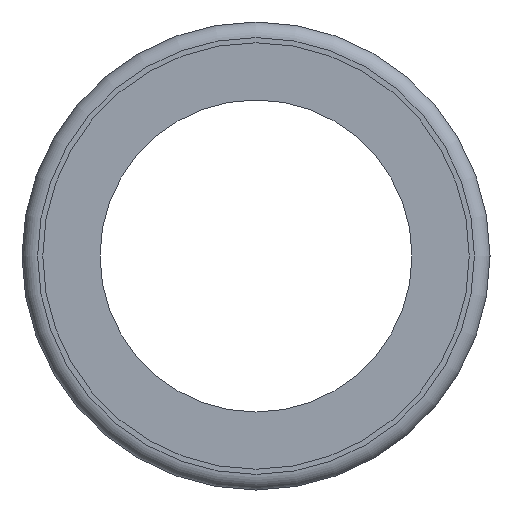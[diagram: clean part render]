
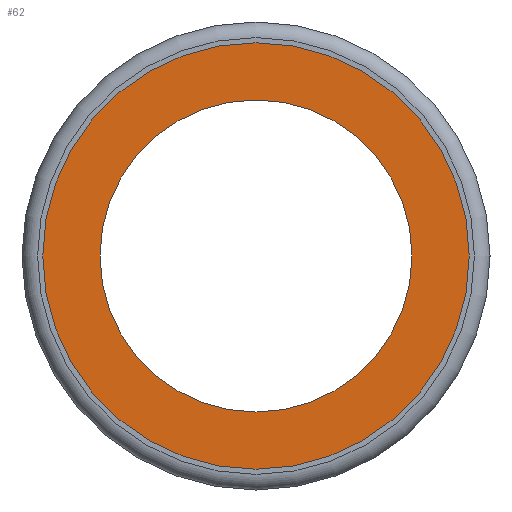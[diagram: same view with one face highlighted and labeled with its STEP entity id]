
A CAD part, left-side view. The second image highlights one B-rep face of the part: STEP entity #62.
In plain terms, the highlighted planar face has unit normal (-1, 0, 0).
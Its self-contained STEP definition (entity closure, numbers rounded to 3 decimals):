
#62 = ADVANCED_FACE( '', ( #135, #136 ), #137, .T. );
#135 = FACE_BOUND( '', #214, .T. );
#136 = FACE_OUTER_BOUND( '', #215, .T. );
#137 = PLANE( '', #216 );
#214 = EDGE_LOOP( '', ( #307 ) );
#215 = EDGE_LOOP( '', ( #308 ) );
#216 = AXIS2_PLACEMENT_3D( '', #309, #310, #311 );
#307 = ORIENTED_EDGE( '', *, *, #359, .F. );
#308 = ORIENTED_EDGE( '', *, *, #364, .T. );
#309 = CARTESIAN_POINT( '', ( 6.15, 17.75, 0. ) );
#310 = DIRECTION( '', ( -1., 0., 0. ) );
#311 = DIRECTION( '', ( 0., 1., 0. ) );
#359 = EDGE_CURVE( '', #398, #398, #399, .T. );
#364 = EDGE_CURVE( '', #406, #406, #407, .T. );
#398 = VERTEX_POINT( '', #452 );
#399 = CIRCLE( '', #453, 15. );
#406 = VERTEX_POINT( '', #460 );
#407 = CIRCLE( '', #461, 20.5 );
#452 = CARTESIAN_POINT( '', ( 6.15, 0., 15. ) );
#453 = AXIS2_PLACEMENT_3D( '', #507, #508, #509 );
#460 = CARTESIAN_POINT( '', ( 6.15, 0., 20.5 ) );
#461 = AXIS2_PLACEMENT_3D( '', #516, #517, #518 );
#507 = CARTESIAN_POINT( '', ( 6.15, 0., 0. ) );
#508 = DIRECTION( '', ( -1., 0., 0. ) );
#509 = DIRECTION( '', ( 0., 0., 1. ) );
#516 = CARTESIAN_POINT( '', ( 6.15, 0., 0. ) );
#517 = DIRECTION( '', ( -1., 0., 0. ) );
#518 = DIRECTION( '', ( 0., 0., 1. ) );
